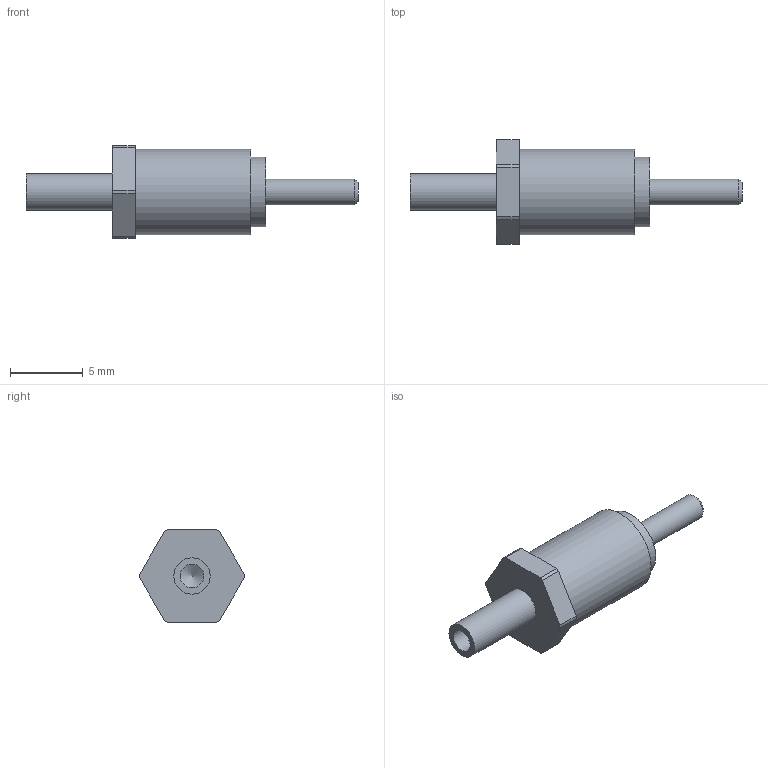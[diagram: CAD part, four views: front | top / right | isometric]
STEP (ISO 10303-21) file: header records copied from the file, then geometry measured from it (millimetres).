
FILE_DESCRIPTION(/* description */ (''),/* implementation_level */ '2;1');
FILE_NAME(/* name */ '\\Snap1\dwgs\Customer 3D Models\572\572-4848-04 Customer model.stp',/* time_stamp */ '2017-01-11T13:08:57+00:00',/* author */ ('paulk'),/* organization */ (''),/* preprocessor_version */ 'ST-DEVELOPER v15.2',/* originating_system */ 'Autodesk Inventor 2014',/* authorisation */ '');
FILE_SCHEMA (('CONFIG_CONTROL_DESIGN'));
Length unit declared in the file: millimetre
Products named in the file (1): 572-4848-04 Customer model
Bounding box: 22.83 x 7.2 x 6.35 mm (x, y, z)
Volume: 330.5 mm3; surface area: 356.8 mm2
Topology: 1 solids, 1 shells, 25 faces, 55 edges, 36 vertices
Faces by surface type: plane 12, cylinder 11, cone 2
Full cylindrical faces by diameter (mm): 1.613 x1, 1.778 x1, 2.489 x1, 4.775 x1, 5.893 x1
Entity records: 726 total; most frequent: DIRECTION 122, CARTESIAN_POINT 108, ORIENTED_EDGE 94, AXIS2_PLACEMENT_3D 49, EDGE_CURVE 47, EDGE_LOOP 36, VERTEX_POINT 35, STYLED_ITEM 26
